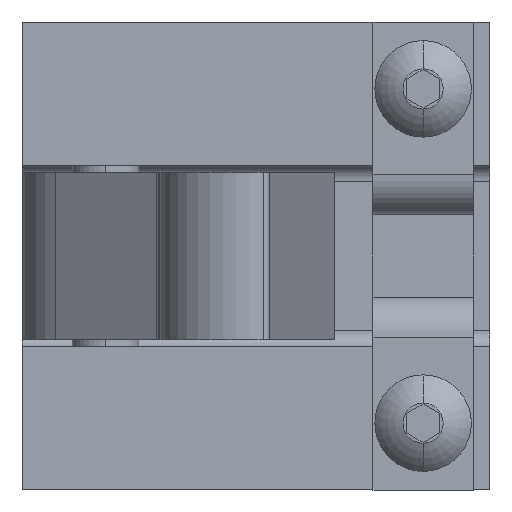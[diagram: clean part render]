
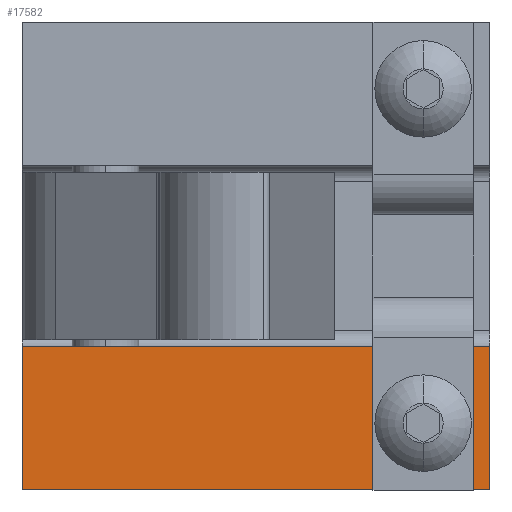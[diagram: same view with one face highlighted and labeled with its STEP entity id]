
A CAD part, left-side view. The second image highlights one B-rep face of the part: STEP entity #17582.
In plain terms, the highlighted planar face has unit normal (-1, 0, 0).
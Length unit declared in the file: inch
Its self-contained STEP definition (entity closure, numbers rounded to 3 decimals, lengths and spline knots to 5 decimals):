
#2595 = DIRECTION ( 'NONE',  ( 0., 0., 1. ) ) ;
#2596 = DIRECTION ( 'NONE',  ( -1., 0., 0. ) ) ;
#2597 = CARTESIAN_POINT ( 'NONE',  ( 7.4273, 3.84026, -1.5 ) ) ;
#2598 = AXIS2_PLACEMENT_3D ( 'NONE', #2597, #2596, #2595 ) ;
#2599 = CIRCLE ( 'NONE', #2598, 0.09375 ) ;
#2640 = CARTESIAN_POINT ( 'NONE',  ( 7.4273, 3.84026, -1.59375 ) ) ;
#2645 = CARTESIAN_POINT ( 'NONE',  ( 7.4273, 3.84026, -1.40625 ) ) ;
#3542 = CARTESIAN_POINT ( 'NONE',  ( 7.4273, 5.34026, -1.215 ) ) ;
#5430 = VECTOR ( 'NONE', #5491, 39.37008 ) ;
#5431 = CARTESIAN_POINT ( 'NONE',  ( 7.4273, 5.34026, -1.75 ) ) ;
#5432 = LINE ( 'NONE', #5431, #5430 ) ;
#5433 = CARTESIAN_POINT ( 'NONE',  ( 7.4273, 5.34026, -1.75 ) ) ;
#5491 = DIRECTION ( 'NONE',  ( 0., 0., 1. ) ) ;
#6109 = DIRECTION ( 'NONE',  ( 0., 0., 1. ) ) ;
#6110 = VECTOR ( 'NONE', #6109, 39.37008 ) ;
#6111 = CARTESIAN_POINT ( 'NONE',  ( 7.4273, 3.59026, -1.75 ) ) ;
#6112 = LINE ( 'NONE', #6111, #6110 ) ;
#6113 = CARTESIAN_POINT ( 'NONE',  ( 7.4273, 3.59026, -1.75 ) ) ;
#6276 = DIRECTION ( 'NONE',  ( 0., 0., 1. ) ) ;
#6277 = DIRECTION ( 'NONE',  ( -1., 0., 0. ) ) ;
#6278 = AXIS2_PLACEMENT_3D ( 'NONE', #6299, #6277, #6276 ) ;
#6279 = CIRCLE ( 'NONE', #6278, 0.09375 ) ;
#6299 = CARTESIAN_POINT ( 'NONE',  ( 7.4273, 3.84026, -1.5 ) ) ;
#6358 = LINE ( 'NONE', #6404, #6403 ) ;
#6362 = DIRECTION ( 'NONE',  ( 0., -1., 0. ) ) ;
#6363 = VECTOR ( 'NONE', #6362, 39.37008 ) ;
#6364 = CARTESIAN_POINT ( 'NONE',  ( 7.4273, 3.59026, -1.215 ) ) ;
#6386 = LINE ( 'NONE', #6364, #6363 ) ;
#6403 = VECTOR ( 'NONE', #6430, 39.37008 ) ;
#6404 = CARTESIAN_POINT ( 'NONE',  ( 7.4273, 3.59026, -1.75 ) ) ;
#6430 = DIRECTION ( 'NONE',  ( 0., -1., 0. ) ) ;
#6566 = FACE_OUTER_BOUND ( 'NONE', #17583, .T. ) ;
#6572 = FACE_BOUND ( 'NONE', #17495, .T. ) ;
#6589 = DIRECTION ( 'NONE',  ( 0., 0., 1. ) ) ;
#6590 = DIRECTION ( 'NONE',  ( -1., 0., 0. ) ) ;
#6591 = CARTESIAN_POINT ( 'NONE',  ( 7.4273, 3.59026, -1.75 ) ) ;
#6592 = AXIS2_PLACEMENT_3D ( 'NONE', #6591, #6590, #6589 ) ;
#6593 = PLANE ( 'NONE',  #6592 ) ;
#6641 = CARTESIAN_POINT ( 'NONE',  ( 7.4273, 3.59026, -1.215 ) ) ;
#15862 = EDGE_CURVE ( 'NONE', #15874, #15869, #2599, .T. ) ;
#15869 = VERTEX_POINT ( 'NONE', #2645 ) ;
#15874 = VERTEX_POINT ( 'NONE', #2640 ) ;
#16264 = VERTEX_POINT ( 'NONE', #3542 ) ;
#17217 = VERTEX_POINT ( 'NONE', #5433 ) ;
#17220 = EDGE_CURVE ( 'NONE', #17217, #16264, #5432, .T. ) ;
#17442 = VERTEX_POINT ( 'NONE', #6113 ) ;
#17444 = ORIENTED_EDGE ( 'NONE', *, *, #17445, .T. ) ;
#17445 = EDGE_CURVE ( 'NONE', #17442, #17586, #6112, .T. ) ;
#17495 = EDGE_LOOP ( 'NONE', ( #17497, #17502 ) ) ;
#17497 = ORIENTED_EDGE ( 'NONE', *, *, #17499, .F. ) ;
#17499 = EDGE_CURVE ( 'NONE', #15869, #15874, #6279, .T. ) ;
#17502 = ORIENTED_EDGE ( 'NONE', *, *, #15862, .F. ) ;
#17514 = EDGE_CURVE ( 'NONE', #16264, #17586, #6386, .T. ) ;
#17517 = ORIENTED_EDGE ( 'NONE', *, *, #17220, .F. ) ;
#17519 = ORIENTED_EDGE ( 'NONE', *, *, #17522, .T. ) ;
#17522 = EDGE_CURVE ( 'NONE', #17217, #17442, #6358, .T. ) ;
#17582 = ADVANCED_FACE ( 'NONE', ( #6566, #6572 ), #6593, .T. ) ;
#17583 = EDGE_LOOP ( 'NONE', ( #17585, #17517, #17519, #17444 ) ) ;
#17585 = ORIENTED_EDGE ( 'NONE', *, *, #17514, .F. ) ;
#17586 = VERTEX_POINT ( 'NONE', #6641 ) ;
